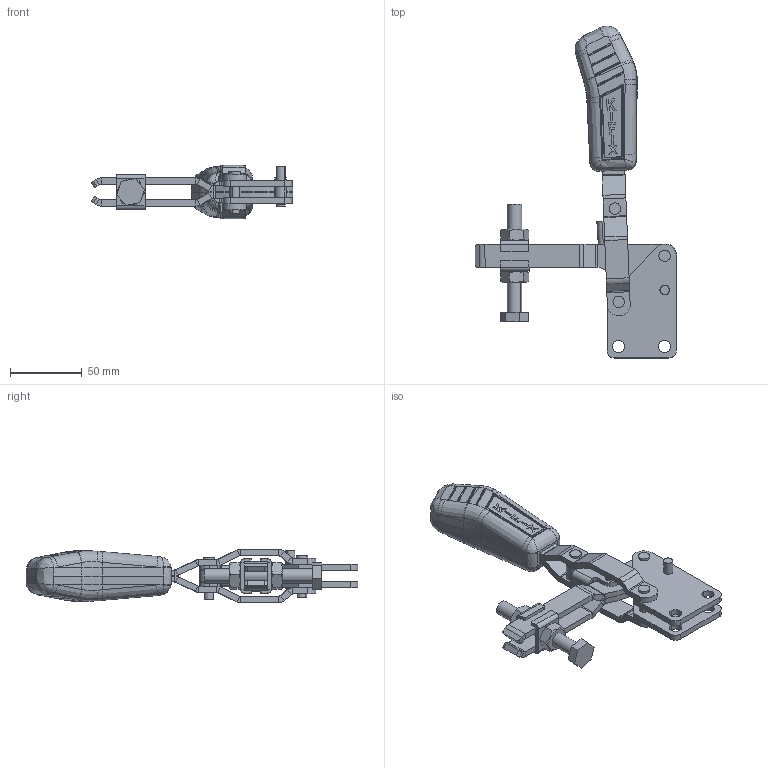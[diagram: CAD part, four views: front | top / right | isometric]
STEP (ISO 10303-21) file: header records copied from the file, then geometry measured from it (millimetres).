
FILE_DESCRIPTION (( 'STEP AP203' ), '1' );
FILE_NAME ('KF-011 RB.STEP', '2014-07-28T13:05:18', ( 'Ricardo' ), ( '' ), 'SwSTEP 2.0', 'SolidWorks 2013', '' );
FILE_SCHEMA (( 'CONFIG_CONTROL_DESIGN' ));
Length unit declared in the file: millimetre
Products named in the file (14): 05.20005; 01.10013; 12.50004; 04.10002; 11.50003; 14.10003; 02.11007; 07.60002; KF-011 RB; 04.20002; 06.50007; 03.13005_Direita; 06.50008; 03.13005_Esquerda
Assembly tree (19 placements, depth 2):
  KF-011 RB
    03.13005_Direita
    03.13005_Esquerda
    01.10013  x2
    04.10002
    07.60002
    04.20002
    06.50007  x2
    06.50008  x2
    05.20005
    12.50004
    11.50003  x2
    14.10003  x2
    02.11007  x2
Bounding box: 140.22 x 230.73 x 37 mm (x, y, z)
Volume: 172328 mm3; surface area: 73278.7 mm2
Topology: 19 solids, 19 shells, 832 faces, 2000 edges, 1217 vertices
Faces by surface type: plane 360, cylinder 228, bspline 157, sphere 52, cone 32, torus 3
Entity records: 25556 total; most frequent: CARTESIAN_POINT 9200, ORIENTED_EDGE 3292, DIRECTION 2701, EDGE_CURVE 1646, VERTEX_POINT 1015, AXIS2_PLACEMENT_3D 1009, EDGE_LOOP 749, ADVANCED_FACE 684
